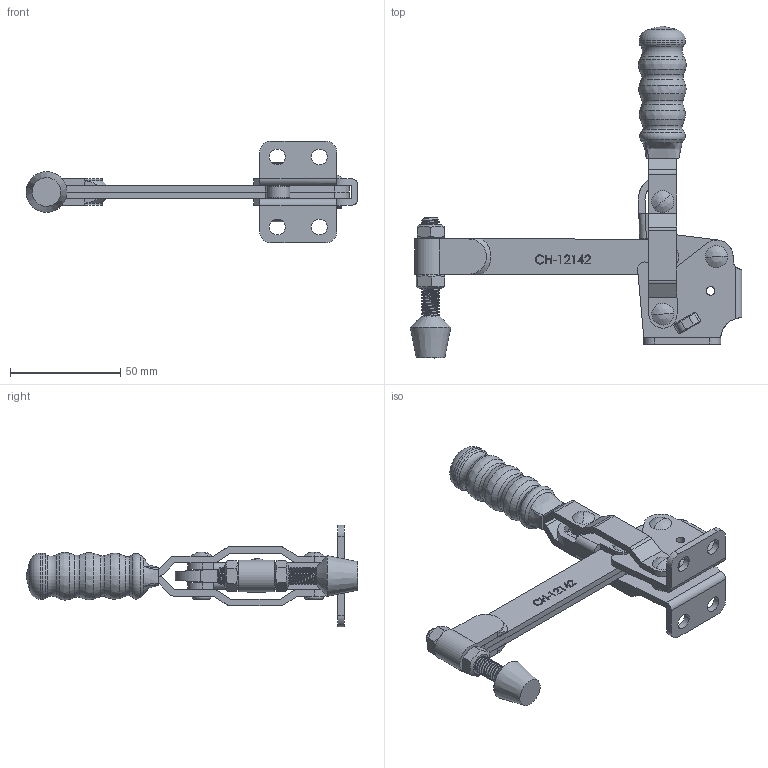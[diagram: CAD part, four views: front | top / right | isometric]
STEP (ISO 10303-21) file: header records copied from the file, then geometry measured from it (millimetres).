
FILE_DESCRIPTION(/* description */ ('STEP AP203'),/* implementation_level */ '2;1');
FILE_NAME(/* name */ 'D:\Vault_2016\Projekty\NASZ KATALOG\CLAMPTEK\STRONA\Vertical toggle clamp\CH-12142\CH-12142_ZAMKNIETY.stp',/* time_stamp */ '2019-01-18T12:26:59+01:00',/* author */ ('CADENGINEERING4'),/* organization */ ('Î¢ÈíÖÐ¹ú'),/* preprocessor_version */ 'ST-DEVELOPER v17.2',/* originating_system */ 'Autodesk Inventor 2019',/* authorisation */ '');
FILE_SCHEMA (('AUTOMOTIVE_DESIGN { 1 0 10303 214 3 1 1 }'));
Products named in the file (11): CH-12142_ZAMKNIETY; CH-12130-07; CH-FC-56212 SPINDLE SUPPLIED; CH-12130-04 CONNECTING-PLATE; CH-12142-02 LONG SOLID BAR_Ä¬ÈÏ_°´
¼Ó¹¤_; CH-12130-03 STRAIGHT HANDLE; CH-12130-06; CH-FC-56212 Nut; CH-12130-05; CH-12130-08; CH-12130-01 FLANGED BASE
Assembly tree (13 placements, depth 2):
  CH-12142_ZAMKNIETY
    CH-12130-06  x2
    CH-12130-07
    CH-FC-56212 Nut  x2
    CH-FC-56212 SPINDLE SUPPLIED
    CH-12130-08  x2
    CH-12130-04 CONNECTING-PLATE
    CH-12142-02 LONG SOLID BAR_Ä¬ÈÏ_°´
¼Ó¹¤_
    CH-12130-03 STRAIGHT HANDLE
    CH-12130-05
    CH-12130-01 FLANGED BASE
Bounding box: 150.46 x 150.59 x 46 mm (x, y, z)
Volume: 63660 mm3; surface area: 48307.7 mm2
Topology: 19 solids, 19 shells, 688 faces, 1915 edges, 1288 vertices
Faces by surface type: plane 305, bspline 176, cylinder 150, cone 32, torus 25
Full cylindrical faces by diameter (mm): 1.55 x1, 1.744 x1, 3.9 x2, 6.3 x6, 6.4 x20, 6.8 x1, 7.2 x4, 7.92 x32, 8.4 x2, 10 x1, 20.847 x1
Entity records: 45486 total; most frequent: CARTESIAN_POINT 29345, ORIENTED_EDGE 3600, DIRECTION 2725, EDGE_CURVE 1800, VERTEX_POINT 1216, LINE 979, VECTOR 979, AXIS2_PLACEMENT_3D 873
